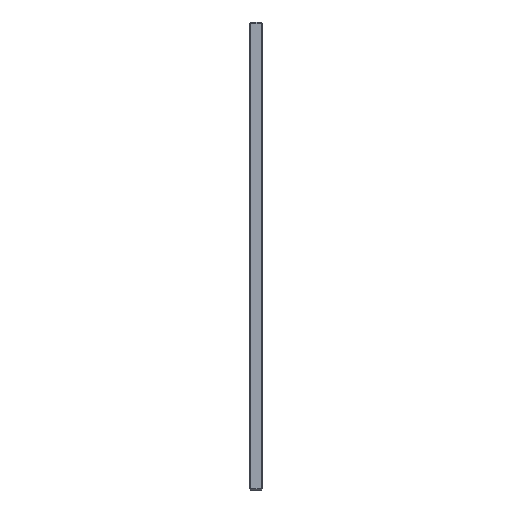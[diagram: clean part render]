
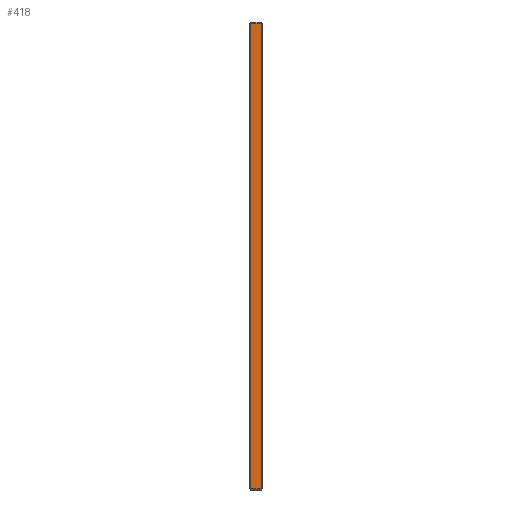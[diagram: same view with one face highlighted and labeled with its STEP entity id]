
A CAD part, left-side view. The second image highlights one B-rep face of the part: STEP entity #418.
In plain terms, the highlighted planar face has unit normal (-1, 0, 0).
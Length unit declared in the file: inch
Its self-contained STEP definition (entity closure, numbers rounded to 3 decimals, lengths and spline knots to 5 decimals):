
#8 = EDGE_CURVE ( 'NONE', #1530, #1216, #1302, .T. ) ;
#55 = CARTESIAN_POINT ( 'NONE',  ( -14.6875, 0.5, -8.875 ) ) ;
#107 = LINE ( 'NONE', #1963, #365 ) ;
#200 = DIRECTION ( 'NONE',  ( 0., 0., -1. ) ) ;
#248 = DIRECTION ( 'NONE',  ( 0., -1., 0. ) ) ;
#264 = LINE ( 'NONE', #623, #698 ) ;
#269 = CARTESIAN_POINT ( 'NONE',  ( -14.6875, 0.05, -8.875 ) ) ;
#315 = DIRECTION ( 'NONE',  ( 0., 1., 0. ) ) ;
#352 = EDGE_LOOP ( 'NONE', ( #1893, #860, #1590, #1924 ) ) ;
#365 = VECTOR ( 'NONE', #200, 39.37008 ) ;
#418 = ADVANCED_FACE ( 'Placement Plane', ( #1375 ), #1030, .F. ) ;
#456 = VECTOR ( 'NONE', #248, 39.37008 ) ;
#458 = LINE ( 'NONE', #269, #1305 ) ;
#597 = AXIS2_PLACEMENT_3D ( 'NONE', #55, #876, #1200 ) ;
#623 = CARTESIAN_POINT ( 'NONE',  ( -14.6875, 0.5, 8.825 ) ) ;
#629 = VERTEX_POINT ( 'NONE', #1105 ) ;
#698 = VECTOR ( 'NONE', #315, 39.37008 ) ;
#719 = CARTESIAN_POINT ( 'NONE',  ( -14.6875, 0.05, -8.825 ) ) ;
#798 = EDGE_CURVE ( 'NONE', #1974, #1530, #107, .T. ) ;
#860 = ORIENTED_EDGE ( 'NONE', *, *, #8, .T. ) ;
#876 = DIRECTION ( 'NONE',  ( 1., 0., 0. ) ) ;
#1030 = PLANE ( 'NONE',  #597 ) ;
#1105 = CARTESIAN_POINT ( 'NONE',  ( -14.6875, 0.05, 8.825 ) ) ;
#1200 = DIRECTION ( 'NONE',  ( 0., 0., -1. ) ) ;
#1216 = VERTEX_POINT ( 'NONE', #719 ) ;
#1223 = DIRECTION ( 'NONE',  ( 0., 0., 1. ) ) ;
#1292 = CARTESIAN_POINT ( 'NONE',  ( -14.6875, 0.45, -8.825 ) ) ;
#1302 = LINE ( 'NONE', #1525, #456 ) ;
#1305 = VECTOR ( 'NONE', #1223, 39.37008 ) ;
#1375 = FACE_OUTER_BOUND ( 'NONE', #352, .T. ) ;
#1418 = EDGE_CURVE ( 'NONE', #629, #1974, #264, .T. ) ;
#1420 = CARTESIAN_POINT ( 'NONE',  ( -14.6875, 0.45, 8.825 ) ) ;
#1525 = CARTESIAN_POINT ( 'NONE',  ( -14.6875, 0.5, -8.825 ) ) ;
#1530 = VERTEX_POINT ( 'NONE', #1292 ) ;
#1590 = ORIENTED_EDGE ( 'NONE', *, *, #1880, .T. ) ;
#1880 = EDGE_CURVE ( 'NONE', #1216, #629, #458, .T. ) ;
#1893 = ORIENTED_EDGE ( 'NONE', *, *, #798, .T. ) ;
#1924 = ORIENTED_EDGE ( 'NONE', *, *, #1418, .T. ) ;
#1963 = CARTESIAN_POINT ( 'NONE',  ( -14.6875, 0.45, -8.875 ) ) ;
#1974 = VERTEX_POINT ( 'NONE', #1420 ) ;
